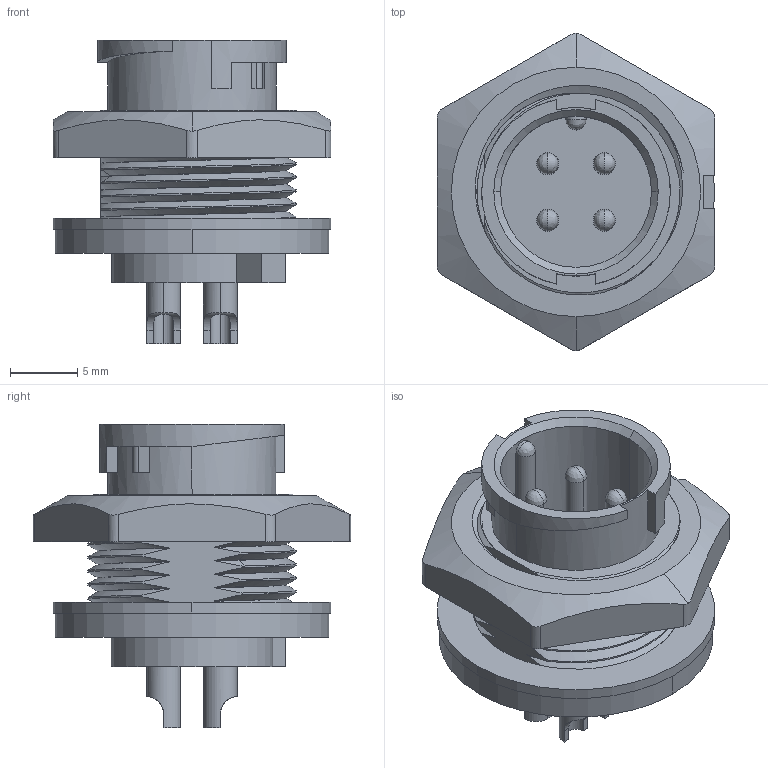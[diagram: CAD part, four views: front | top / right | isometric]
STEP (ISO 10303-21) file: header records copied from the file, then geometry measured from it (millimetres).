
FILE_DESCRIPTION (( 'STEP AP203' ), '1' );
FILE_NAME ('869-04A-103R001.STEP', '2024-06-14T18:25:32', ( '' ), ( '' ), 'SwSTEP 2.0', 'SolidWorks 2020', '' );
FILE_SCHEMA (( 'CONFIG_CONTROL_DESIGN' ));
Length unit declared in the file: millimetre
Products named in the file (1): 869-04A-103R001
Bounding box: 20.6 x 23.54 x 22.5 mm (x, y, z)
Volume: 2713.9 mm3; surface area: 3572.6 mm2
Topology: 1 solids, 1 shells, 240 faces, 672 edges, 418 vertices
Faces by surface type: cylinder 91, plane 59, bspline 53, cone 37
Entity records: 14257 total; most frequent: CARTESIAN_POINT 8678, ORIENTED_EDGE 1292, DIRECTION 934, EDGE_CURVE 646, VERTEX_POINT 418, AXIS2_PLACEMENT_3D 363, B_SPLINE_CURVE_WITH_KNOTS 263, EDGE_LOOP 260
